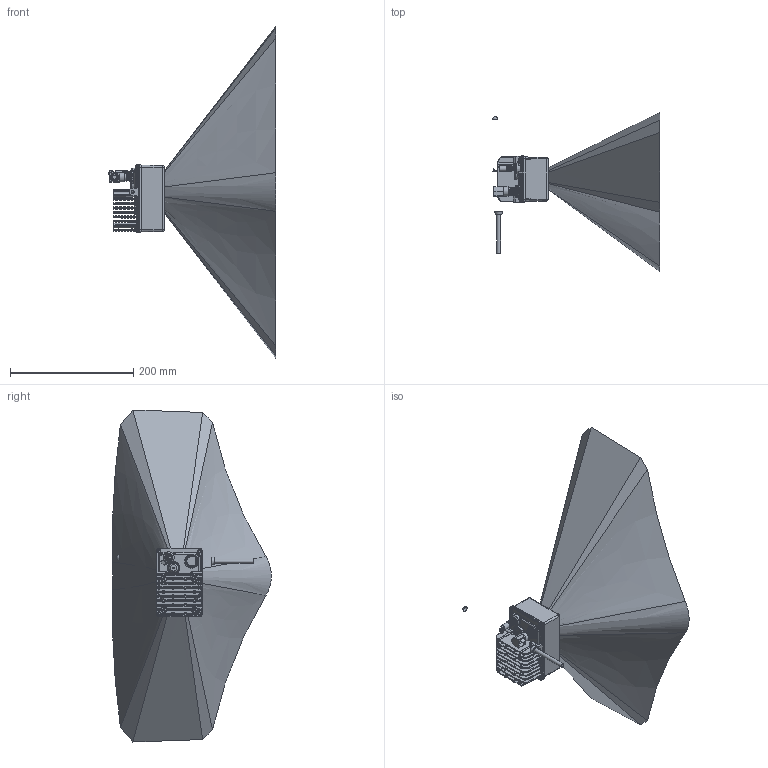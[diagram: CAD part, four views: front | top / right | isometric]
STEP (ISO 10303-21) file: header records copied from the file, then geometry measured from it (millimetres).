
FILE_DESCRIPTION(/* description */ (''),/* implementation_level */ '2;1');
FILE_NAME(/* name */ '10000443_ETR_E.stp',/* time_stamp */ '2023-03-09T09:46:41+01:00',/* author */ ('Menz'),/* organization */ (''),/* preprocessor_version */ 'ST-DEVELOPER v19.2',/* originating_system */ 'Autodesk Inventor 2023',/* authorisation */ '');
FILE_SCHEMA (('AUTOMOTIVE_DESIGN { 1 0 10303 214 3 1 1 }'));
Products named in the file (1): 10000443_simplified
Bounding box: 271.05 x 257.2 x 538 mm (x, y, z)
Volume: 7786441.8 mm3; surface area: 407772.9 mm2
Topology: 13 solids, 13 shells, 2836 faces, 7250 edges, 4393 vertices
Faces by surface type: cylinder 979, bspline 694, plane 514, torus 276, cone 202, sphere 171
Full cylindrical faces by diameter (mm): 0.9 x1, 3 x28, 3.242 x4, 4.7 x1, 4.978 x2, 5.3 x2, 6 x4, 6.5 x2, 7 x1, 7.3 x1, 8.25 x1, 8.5 x1, 9 x2, 9.8 x1, 10.2 x1, 10.5 x1, 10.517 x5, 10.8 x1, 10.9 x1, 12 x1, 12.425 x1, 13 x1, 13.5 x1, 14.4 x1, 15 x1, 20 x1
Entity records: 155589 total; most frequent: CARTESIAN_POINT 88287, ORIENTED_EDGE 14278, DIRECTION 12498, EDGE_CURVE 7139, AXIS2_PLACEMENT_3D 5173, VERTEX_POINT 4393, EDGE_LOOP 2942, STYLED_ITEM 2847
